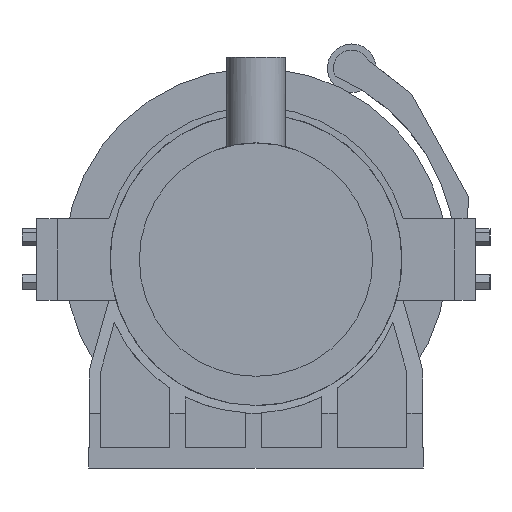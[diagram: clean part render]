
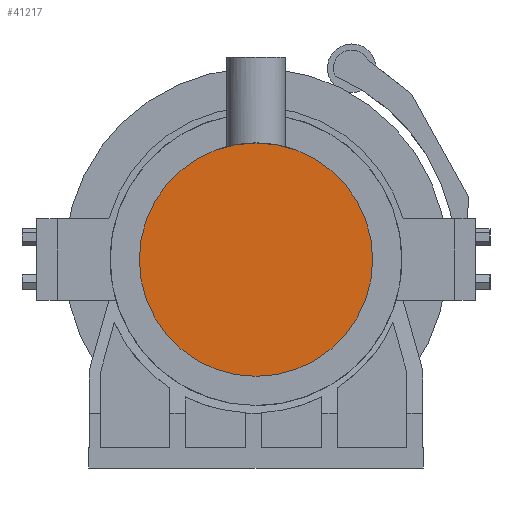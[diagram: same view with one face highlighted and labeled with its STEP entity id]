
A CAD part, front view. The second image highlights one B-rep face of the part: STEP entity #41217.
In plain terms, the highlighted planar face has unit normal (0, -1, 0).
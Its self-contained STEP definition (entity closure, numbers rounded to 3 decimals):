
#157 = DIRECTION ( 'NONE',  ( 0., 0., -1. ) ) ;
#1679 = AXIS2_PLACEMENT_3D ( 'NONE', #18055, #3226, #34112 ) ;
#1798 = FACE_OUTER_BOUND ( 'NONE', #13440, .T. ) ;
#2484 = CARTESIAN_POINT ( 'NONE',  ( 0., -262.5, 75.429 ) ) ;
#3226 = DIRECTION ( 'NONE',  ( 0., -1., 0. ) ) ;
#5189 = CARTESIAN_POINT ( 'NONE',  ( 0., -262.5, 267.429 ) ) ;
#6298 = DIRECTION ( 'NONE',  ( 0., -1., 0. ) ) ;
#9074 = PLANE ( 'NONE',  #23370 ) ;
#10438 = VERTEX_POINT ( 'NONE', #2484 ) ;
#10463 = ORIENTED_EDGE ( 'NONE', *, *, #38797, .T. ) ;
#12187 = CARTESIAN_POINT ( 'NONE',  ( 0., -262.5, 171.429 ) ) ;
#13440 = EDGE_LOOP ( 'NONE', ( #10463, #25027 ) ) ;
#15099 = CIRCLE ( 'NONE', #29538, 96. ) ;
#18055 = CARTESIAN_POINT ( 'NONE',  ( 0., -262.5, 171.429 ) ) ;
#22496 = EDGE_CURVE ( 'NONE', #10438, #30809, #15099, .T. ) ;
#23370 = AXIS2_PLACEMENT_3D ( 'NONE', #43943, #6298, #32923 ) ;
#25027 = ORIENTED_EDGE ( 'NONE', *, *, #22496, .T. ) ;
#29538 = AXIS2_PLACEMENT_3D ( 'NONE', #12187, #31255, #157 ) ;
#30532 = CIRCLE ( 'NONE', #1679, 96. ) ;
#30809 = VERTEX_POINT ( 'NONE', #5189 ) ;
#31255 = DIRECTION ( 'NONE',  ( 0., -1., 0. ) ) ;
#32923 = DIRECTION ( 'NONE',  ( 0., 0., -1. ) ) ;
#34112 = DIRECTION ( 'NONE',  ( 0., 0., -1. ) ) ;
#38797 = EDGE_CURVE ( 'NONE', #30809, #10438, #30532, .T. ) ;
#41217 = ADVANCED_FACE ( 'NONE', ( #1798 ), #9074, .T. ) ;
#43943 = CARTESIAN_POINT ( 'NONE',  ( 0., -262.5, 171.429 ) ) ;
